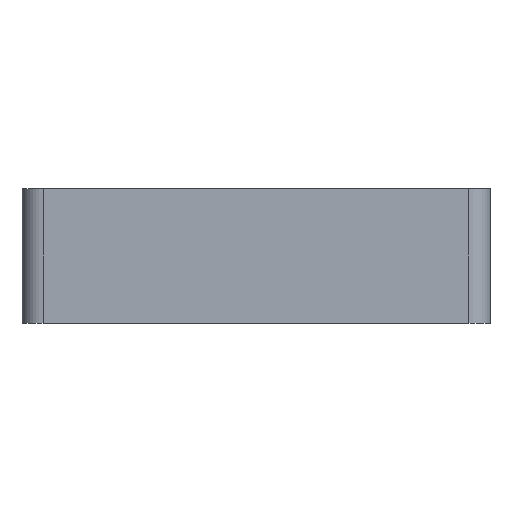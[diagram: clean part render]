
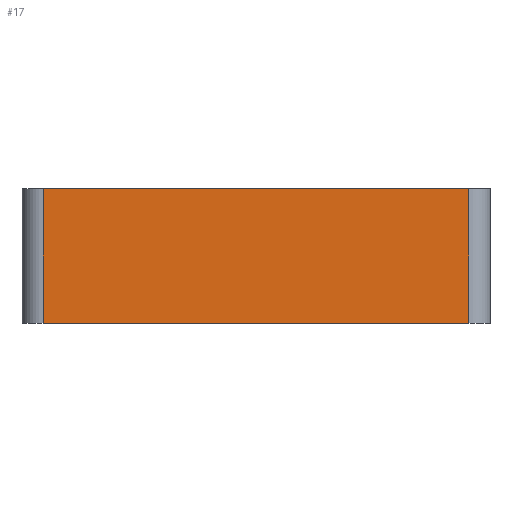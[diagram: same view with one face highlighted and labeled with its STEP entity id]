
A CAD part, left-side view. The second image highlights one B-rep face of the part: STEP entity #17.
In plain terms, the highlighted planar face has unit normal (-1, 0, 0).
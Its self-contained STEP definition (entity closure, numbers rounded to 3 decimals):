
#17 = ADVANCED_FACE('',(#18),#32,.F.);
#18 = FACE_BOUND('',#19,.F.);
#19 = EDGE_LOOP('',(#20,#55,#83,#111));
#20 = ORIENTED_EDGE('',*,*,#21,.F.);
#21 = EDGE_CURVE('',#22,#24,#26,.T.);
#22 = VERTEX_POINT('',#23);
#23 = CARTESIAN_POINT('',(-32.4,-40.4,0.));
#24 = VERTEX_POINT('',#25);
#25 = CARTESIAN_POINT('',(-32.4,40.4,0.));
#26 = SURFACE_CURVE('',#27,(#31,#43),.PCURVE_S1.);
#27 = LINE('',#28,#29);
#28 = CARTESIAN_POINT('',(-32.4,-44.4,0.));
#29 = VECTOR('',#30,1.);
#30 = DIRECTION('',(0.,1.,0.));
#31 = PCURVE('',#32,#37);
#32 = PLANE('',#33);
#33 = AXIS2_PLACEMENT_3D('',#34,#35,#36);
#34 = CARTESIAN_POINT('',(-32.4,-44.4,-25.5));
#35 = DIRECTION('',(1.,0.,0.));
#36 = DIRECTION('',(0.,0.,1.));
#37 = DEFINITIONAL_REPRESENTATION('',(#38),#42);
#38 = LINE('',#39,#40);
#39 = CARTESIAN_POINT('',(25.5,0.));
#40 = VECTOR('',#41,1.);
#41 = DIRECTION('',(0.,-1.));
#42 = ( GEOMETRIC_REPRESENTATION_CONTEXT(2) 
PARAMETRIC_REPRESENTATION_CONTEXT() REPRESENTATION_CONTEXT('2D SPACE',''
  ) );
#43 = PCURVE('',#44,#49);
#44 = PLANE('',#45);
#45 = AXIS2_PLACEMENT_3D('',#46,#47,#48);
#46 = CARTESIAN_POINT('',(-32.4,-44.4,0.));
#47 = DIRECTION('',(0.,0.,1.));
#48 = DIRECTION('',(1.,0.,0.));
#49 = DEFINITIONAL_REPRESENTATION('',(#50),#54);
#50 = LINE('',#51,#52);
#51 = CARTESIAN_POINT('',(0.,0.));
#52 = VECTOR('',#53,1.);
#53 = DIRECTION('',(0.,1.));
#54 = ( GEOMETRIC_REPRESENTATION_CONTEXT(2) 
PARAMETRIC_REPRESENTATION_CONTEXT() REPRESENTATION_CONTEXT('2D SPACE',''
  ) );
#55 = ORIENTED_EDGE('',*,*,#56,.F.);
#56 = EDGE_CURVE('',#57,#22,#59,.T.);
#57 = VERTEX_POINT('',#58);
#58 = CARTESIAN_POINT('',(-32.4,-40.4,-25.5));
#59 = SURFACE_CURVE('',#60,(#64,#71),.PCURVE_S1.);
#60 = LINE('',#61,#62);
#61 = CARTESIAN_POINT('',(-32.4,-40.4,-25.5));
#62 = VECTOR('',#63,1.);
#63 = DIRECTION('',(0.,0.,1.));
#64 = PCURVE('',#32,#65);
#65 = DEFINITIONAL_REPRESENTATION('',(#66),#70);
#66 = LINE('',#67,#68);
#67 = CARTESIAN_POINT('',(0.,-4.));
#68 = VECTOR('',#69,1.);
#69 = DIRECTION('',(1.,0.));
#70 = ( GEOMETRIC_REPRESENTATION_CONTEXT(2) 
PARAMETRIC_REPRESENTATION_CONTEXT() REPRESENTATION_CONTEXT('2D SPACE',''
  ) );
#71 = PCURVE('',#72,#77);
#72 = CYLINDRICAL_SURFACE('',#73,4.);
#73 = AXIS2_PLACEMENT_3D('',#74,#75,#76);
#74 = CARTESIAN_POINT('',(-28.4,-40.4,-25.5));
#75 = DIRECTION('',(0.,0.,1.));
#76 = DIRECTION('',(-1.,-0.,0.));
#77 = DEFINITIONAL_REPRESENTATION('',(#78),#82);
#78 = LINE('',#79,#80);
#79 = CARTESIAN_POINT('',(0.,0.));
#80 = VECTOR('',#81,1.);
#81 = DIRECTION('',(0.,1.));
#82 = ( GEOMETRIC_REPRESENTATION_CONTEXT(2) 
PARAMETRIC_REPRESENTATION_CONTEXT() REPRESENTATION_CONTEXT('2D SPACE',''
  ) );
#83 = ORIENTED_EDGE('',*,*,#84,.T.);
#84 = EDGE_CURVE('',#57,#85,#87,.T.);
#85 = VERTEX_POINT('',#86);
#86 = CARTESIAN_POINT('',(-32.4,40.4,-25.5));
#87 = SURFACE_CURVE('',#88,(#92,#99),.PCURVE_S1.);
#88 = LINE('',#89,#90);
#89 = CARTESIAN_POINT('',(-32.4,-44.4,-25.5));
#90 = VECTOR('',#91,1.);
#91 = DIRECTION('',(0.,1.,0.));
#92 = PCURVE('',#32,#93);
#93 = DEFINITIONAL_REPRESENTATION('',(#94),#98);
#94 = LINE('',#95,#96);
#95 = CARTESIAN_POINT('',(0.,0.));
#96 = VECTOR('',#97,1.);
#97 = DIRECTION('',(0.,-1.));
#98 = ( GEOMETRIC_REPRESENTATION_CONTEXT(2) 
PARAMETRIC_REPRESENTATION_CONTEXT() REPRESENTATION_CONTEXT('2D SPACE',''
  ) );
#99 = PCURVE('',#100,#105);
#100 = PLANE('',#101);
#101 = AXIS2_PLACEMENT_3D('',#102,#103,#104);
#102 = CARTESIAN_POINT('',(-32.4,-44.4,-25.5));
#103 = DIRECTION('',(0.,0.,1.));
#104 = DIRECTION('',(1.,0.,0.));
#105 = DEFINITIONAL_REPRESENTATION('',(#106),#110);
#106 = LINE('',#107,#108);
#107 = CARTESIAN_POINT('',(0.,0.));
#108 = VECTOR('',#109,1.);
#109 = DIRECTION('',(0.,1.));
#110 = ( GEOMETRIC_REPRESENTATION_CONTEXT(2) 
PARAMETRIC_REPRESENTATION_CONTEXT() REPRESENTATION_CONTEXT('2D SPACE',''
  ) );
#111 = ORIENTED_EDGE('',*,*,#112,.T.);
#112 = EDGE_CURVE('',#85,#24,#113,.T.);
#113 = SURFACE_CURVE('',#114,(#118,#125),.PCURVE_S1.);
#114 = LINE('',#115,#116);
#115 = CARTESIAN_POINT('',(-32.4,40.4,-25.5));
#116 = VECTOR('',#117,1.);
#117 = DIRECTION('',(0.,0.,1.));
#118 = PCURVE('',#32,#119);
#119 = DEFINITIONAL_REPRESENTATION('',(#120),#124);
#120 = LINE('',#121,#122);
#121 = CARTESIAN_POINT('',(0.,-84.8));
#122 = VECTOR('',#123,1.);
#123 = DIRECTION('',(1.,0.));
#124 = ( GEOMETRIC_REPRESENTATION_CONTEXT(2) 
PARAMETRIC_REPRESENTATION_CONTEXT() REPRESENTATION_CONTEXT('2D SPACE',''
  ) );
#125 = PCURVE('',#126,#131);
#126 = CYLINDRICAL_SURFACE('',#127,4.);
#127 = AXIS2_PLACEMENT_3D('',#128,#129,#130);
#128 = CARTESIAN_POINT('',(-28.4,40.4,-25.5));
#129 = DIRECTION('',(0.,0.,1.));
#130 = DIRECTION('',(-1.,-0.,0.));
#131 = DEFINITIONAL_REPRESENTATION('',(#132),#136);
#132 = LINE('',#133,#134);
#133 = CARTESIAN_POINT('',(-0.,0.));
#134 = VECTOR('',#135,1.);
#135 = DIRECTION('',(-0.,1.));
#136 = ( GEOMETRIC_REPRESENTATION_CONTEXT(2) 
PARAMETRIC_REPRESENTATION_CONTEXT() REPRESENTATION_CONTEXT('2D SPACE',''
  ) );
